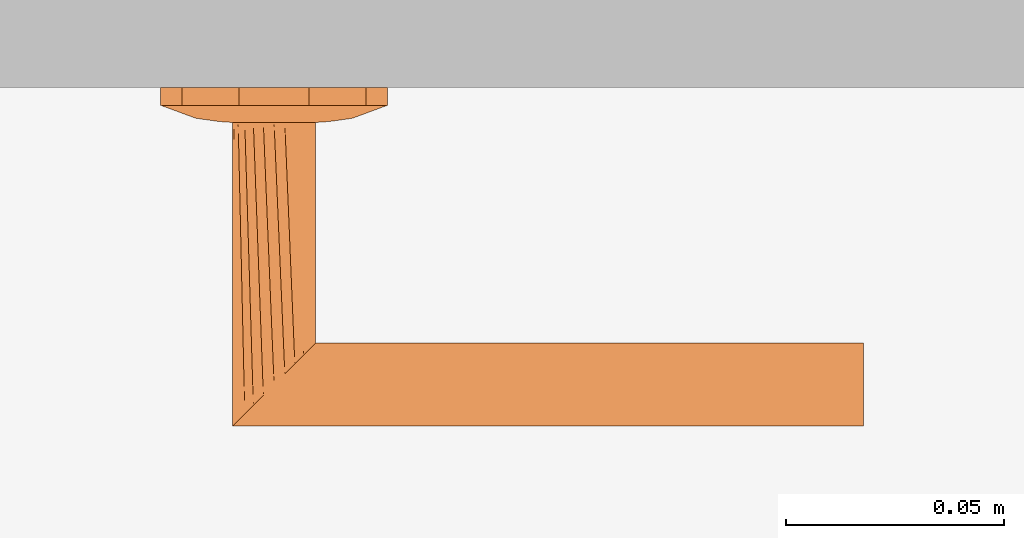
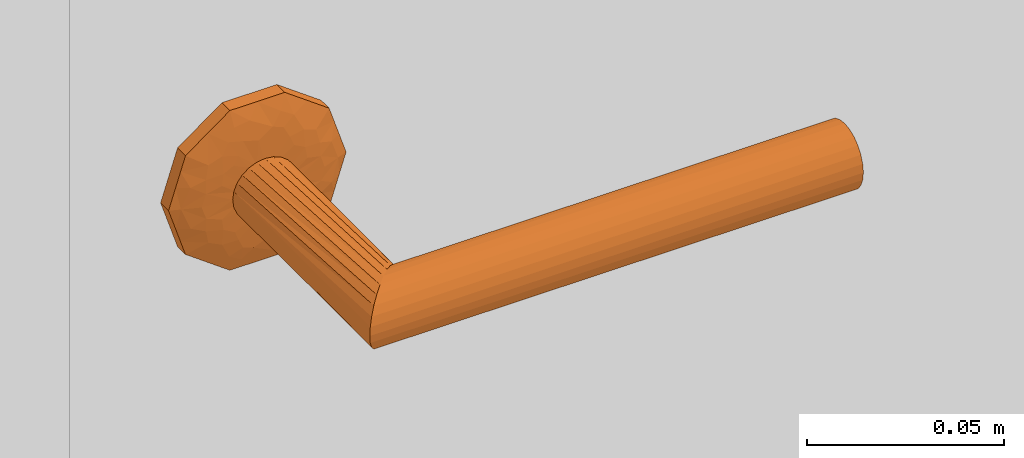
# One storey, part 47 of 55: 1 proxy.
"""IFC2X3 building model written with IfcOpenShell, lengths in millimetres."""

import ifcopenshell
import ifcopenshell.guid

model = None  # the IFC model being written
_history = None  # IfcOwnerHistory: only IFC2X3 demands one
_inside = {}  # id of a spatial element -> (the spatial element, [elements in it])
_under = {}  # id of a project, library or spatial element -> (it, [spatial elements below it])
_declared = {}  # id of a project -> (the project, [libraries it declares])
_typed = {}  # id of a type object -> (the type object, [elements of that type])
_made_of = {}  # id of a material, layer set ... -> (it, [elements and type objects made of it])


def new_model(schema):
    """Start an empty IFC model of exactly this schema.

    Asked for "IFC4X3", IfcOpenShell would pick the latest addendum, in which some entities
    have other attributes; the version numbers below select the first issue.
    IFC2X3 requires an IfcOwnerHistory on every rooted entity: one is made here for all.
    """
    global model, _history
    if schema == "IFC4X3":
        model = ifcopenshell.file(schema_version=(4, 3, 0, 0))
    else:
        model = ifcopenshell.file(schema=schema)
    _inside.clear()
    _under.clear()
    _declared.clear()
    _typed.clear()
    _made_of.clear()
    _history = None
    if model.schema == "IFC2X3":
        org = make("IfcOrganization", Name="unknown")
        user = make(
            "IfcPersonAndOrganization",
            ThePerson=make("IfcPerson", FamilyName="unknown"),
            TheOrganization=org,
        )
        app = make(
            "IfcApplication",
            ApplicationDeveloper=org,
            Version="unknown",
            ApplicationFullName="unknown",
            ApplicationIdentifier="unknown",
        )
        _history = make(
            "IfcOwnerHistory",
            OwningUser=user,
            OwningApplication=app,
            ChangeAction="ADDED",
            CreationDate=0,
        )
    return model


def make(cls, **values):
    """One entity of the class cls with the attributes given. An attribute that is None is left unset."""
    return model.create_entity(
        cls, **{name: value for name, value in values.items() if value is not None}
    )


def entity(cls, *values):
    """Any entity or typed value of the class cls, its attributes in the order of the schema. None: left unset."""
    e = model.create_entity(cls)
    for i, value in enumerate(values):
        if value is not None:
            e[i] = value
    return e


def rooted(cls, **values):
    """An entity with a GlobalId (a new one), such as an element, a storey or a relation."""
    return make(cls, GlobalId=ifcopenshell.guid.new(), OwnerHistory=_history, **values)


def si_unit(unit_type, name, prefix=None):
    """IfcSIUnit, for example si_unit("LENGTHUNIT", "METRE", prefix="MILLI")."""
    return make("IfcSIUnit", UnitType=unit_type, Prefix=prefix, Name=name)


def converted_unit(unit_type, name, factor, base, dimensions=None, offset=None):
    """IfcConversionBasedUnit, such as the inch: factor (a typed value) times the base unit."""
    return make(
        "IfcConversionBasedUnit"
        if offset is None
        else "IfcConversionBasedUnitWithOffset",
        ConversionOffset=offset,
        Dimensions=None
        if dimensions is None
        else entity("IfcDimensionalExponents", *dimensions),
        UnitType=unit_type,
        Name=name,
        ConversionFactor=make(
            "IfcMeasureWithUnit", ValueComponent=factor, UnitComponent=base
        ),
    )


def assignment(units):
    """IfcUnitAssignment: the units of a project."""
    return None if units is None else make("IfcUnitAssignment", Units=units)


def point(xyz):
    """IfcCartesianPoint."""
    return None if xyz is None else make("IfcCartesianPoint", Coordinates=xyz)


def direction(xyz):
    """IfcDirection."""
    return None if xyz is None else make("IfcDirection", DirectionRatios=xyz)


def frame(location, z_axis=None, x_axis=None):
    """IfcAxis2Placement3D, a coordinate frame: its origin and axes. An axis left out is left unset."""
    return make(
        "IfcAxis2Placement3D",
        Location=point(location),
        Axis=direction(z_axis),
        RefDirection=direction(x_axis),
    )


def origin():
    """The frame at (0, 0, 0) with its axes left unset."""
    return frame((0.0, 0.0, 0.0))


def place(relative_to, where):
    """IfcLocalPlacement: puts the frame where relative to a parent placement (None: the world)."""
    return make(
        "IfcLocalPlacement", PlacementRelTo=relative_to, RelativePlacement=where
    )


def context(
    kind, dimensions, precision=None, world=None, true_north=None, identifier=None
):
    """IfcGeometricRepresentationContext, for example the 3D "Model" context."""
    return make(
        "IfcGeometricRepresentationContext",
        ContextIdentifier=identifier,
        ContextType=kind,
        CoordinateSpaceDimension=dimensions,
        Precision=precision,
        WorldCoordinateSystem=world,
        TrueNorth=true_north,
    )


def subcontext(parent, identifier, kind, view, scale=None):
    """IfcGeometricRepresentationSubContext, for example "Body" below "Model"."""
    return make(
        "IfcGeometricRepresentationSubContext",
        ContextIdentifier=identifier,
        ContextType=kind,
        ParentContext=parent,
        TargetScale=scale,
        TargetView=view,
    )


def project(units=None, contexts=None):
    """IfcProject with its units and contexts."""
    return rooted(
        "IfcProject",
        Name="project",
        RepresentationContexts=contexts,
        UnitsInContext=assignment(units),
    )


def spatial(cls, under=None, at=None, **own):
    """A site, building, storey or space (cls), placed at a placement, below another one or the project."""
    s = rooted(cls, ObjectPlacement=at, **own)
    if under is not None:
        _under.setdefault(under.id(), (under, []))[1].append(s)
    return s


def faces_of(points, faces, orient=None, outer=None):
    """IfcFace entities. A face is a list of loops; a loop is a list of indices into points, from 0.

    orient and outer hold one flag for each loop. By default every Orientation is true, the
    first loop of a face is its IfcFaceOuterBound and the others are IfcFaceBound.
    """
    made = []
    for i, loops in enumerate(faces):
        bounds = []
        for j, loop in enumerate(loops):
            is_outer = j == 0 if outer is None else outer[i][j]
            bounds.append(
                make(
                    "IfcFaceOuterBound" if is_outer else "IfcFaceBound",
                    Bound=make("IfcPolyLoop", Polygon=[points[k] for k in loop]),
                    Orientation=True if orient is None else orient[i][j],
                )
            )
        made.append(make("IfcFace", Bounds=bounds))
    return made


def faceted_brep(points, faces, orient=None, outer=None, voids=None):
    """IfcFacetedBrep: a solid bounded by flat faces; with voids (closed shells), ...WithVoids."""
    shared = [point(p) for p in points]
    hull = make("IfcClosedShell", CfsFaces=faces_of(shared, faces, orient, outer))
    if voids is None:
        return make("IfcFacetedBrep", Outer=hull)
    return make(
        "IfcFacetedBrepWithVoids",
        Outer=hull,
        Voids=[
            make(cls, CfsFaces=faces_of(shared, fs, o, b)) for cls, fs, o, b in voids
        ],
    )


def shape(context_of_items, identifier, shape_type, items):
    """IfcShapeRepresentation: the items that make up one representation, for example the "Body"."""
    return make(
        "IfcShapeRepresentation",
        ContextOfItems=context_of_items,
        RepresentationIdentifier=identifier,
        RepresentationType=shape_type,
        Items=items,
    )


def source(mapping_origin, context_of_items, identifier, shape_type, items):
    """IfcRepresentationMap: a shape defined once, which mapped items show again and again."""
    return make(
        "IfcRepresentationMap",
        MappingOrigin=mapping_origin,
        MappedRepresentation=shape(context_of_items, identifier, shape_type, items),
    )


def transform(
    local_origin,
    x_axis=None,
    y_axis=None,
    z_axis=None,
    scale=None,
    scale2=None,
    scale3=None,
    uniform=True,
):
    """IfcCartesianTransformationOperator3D, or its non-uniform kind. x_axis, y_axis, z_axis: its Axis1, 2, 3."""
    if uniform:
        return make(
            "IfcCartesianTransformationOperator3D",
            Axis1=direction(x_axis),
            Axis2=direction(y_axis),
            LocalOrigin=point(local_origin),
            Scale=scale,
            Axis3=direction(z_axis),
        )
    return make(
        "IfcCartesianTransformationOperator3DnonUniform",
        Axis1=direction(x_axis),
        Axis2=direction(y_axis),
        LocalOrigin=point(local_origin),
        Scale=scale,
        Axis3=direction(z_axis),
        Scale2=scale2,
        Scale3=scale3,
    )


def mapped(mapping_source, mapping_target):
    """IfcMappedItem: shows the shape of a source again, moved by a transform."""
    return make(
        "IfcMappedItem", MappingSource=mapping_source, MappingTarget=mapping_target
    )


def material(Name=None, Category=None):
    """IfcMaterial."""
    return make("IfcMaterial", Name=Name, Category=Category)


def made_of(thing, what):
    """Note that an element or type object is made of a material, layer set ...; save() writes the relation."""
    if what is not None:
        _made_of.setdefault(what.id(), (what, []))[1].append(thing)
    return thing


def type_object(cls, material=None, **own):
    """A type object (cls), such as IfcWallType, which elements share."""
    return made_of(rooted(cls, **own), material)


def type_shapes(of_type, sources):
    """Give a type object the sources (RepresentationMaps) that its elements show as mapped items."""
    of_type.RepresentationMaps = sources


def element(
    cls,
    number,
    at=None,
    inside=None,
    cuts=None,
    type_object=None,
    material=None,
    context=None,
    identifier="Body",
    shape_type=None,
    held_by="IfcProductDefinitionShape",
    body=None,
    shapes=None,
    **own,
):
    """One element of the class cls, such as IfcWall. Its Tag is "e" and its number.

    at: its placement. inside: the storey or other place that contains it. cuts: it is an
    opening in that element (IfcRelVoidsElement). A single representation is given by context,
    identifier, shape_type and body (its items); several are given by shapes. held_by: the class
    of the entity that holds the representations. save() writes the other relations.
    """
    e = rooted(cls, Tag="e%d" % number, ObjectPlacement=at, **own)
    if body is not None:
        shapes = [shape(context, identifier, shape_type, body)]
    if shapes is not None:
        e.Representation = make(held_by, Representations=shapes)
    if inside is not None:
        _inside.setdefault(inside.id(), (inside, []))[1].append(e)
    if cuts is not None:
        rooted(
            "IfcRelVoidsElement", RelatingBuildingElement=cuts, RelatedOpeningElement=e
        )
    if type_object is not None:
        _typed.setdefault(type_object.id(), (type_object, []))[1].append(e)
    return made_of(e, material)


def aggregate(whole, parts):
    """IfcRelAggregates: a whole, such as a stair, and the parts it consists of."""
    return rooted("IfcRelAggregates", RelatingObject=whole, RelatedObjects=parts)


def save(model, path):
    """Write the relations noted so far, then the file.

    IfcRelAggregates (storeys below a building ...), IfcRelContainedInSpatialStructure (elements
    in a storey), IfcRelDefinesByType, IfcRelAssociatesMaterial and IfcRelDeclares: one each for
    every whole, place, type object, material and project.
    """
    for whole, parts in _under.values():
        aggregate(whole, parts)
    for where, things in _inside.values():
        rooted(
            "IfcRelContainedInSpatialStructure",
            RelatedElements=things,
            RelatingStructure=where,
        )
    for kind, things in _typed.values():
        rooted("IfcRelDefinesByType", RelatedObjects=things, RelatingType=kind)
    for what, things in _made_of.values():
        rooted("IfcRelAssociatesMaterial", RelatedObjects=things, RelatingMaterial=what)
    for by, libraries in _declared.values():
        rooted("IfcRelDeclares", RelatingContext=by, RelatedDefinitions=libraries)
    model.write(path)


model = new_model("IFC2X3")

# Units and contexts
model_context = context("Model", 3, precision=0.01, world=origin(), true_north=direction((6.123233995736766e-17, 1.0)))
plan_context = context("Plan", 3, precision=0.01, world=origin(), true_north=direction((6.123233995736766e-17, 1.0)))
body_context = subcontext(model_context, "Body", "Model", "MODEL_VIEW")
ifc_project = project(units=[si_unit("LENGTHUNIT", "METRE", prefix="MILLI"), converted_unit("PLANEANGLEUNIT", "DEGREE", entity("IfcPlaneAngleMeasure", 0.017453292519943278), si_unit("PLANEANGLEUNIT", "RADIAN"), dimensions=[0, 0, 0, 0, 0, 0, 0]), si_unit("AREAUNIT", "SQUARE_METRE")], contexts=[model_context, plan_context])

# Site, building, storey
site_placement = place(None, origin())
site = spatial("IfcSite", under=ifc_project, at=site_placement, Name="Default", CompositionType="ELEMENT")
building_placement = place(site_placement, origin())
building = spatial("IfcBuilding", under=site, at=building_placement, CompositionType="ELEMENT")
storey_placement = place(building_placement, origin())
storey = spatial("IfcBuildingStorey", under=building, at=storey_placement, Name="1K", CompositionType="ELEMENT", Elevation=0.0)

# Proxy
ifc_material = material(Name="<Unnamed>")
building_element_proxy_type = type_object("IfcBuildingElementProxyType", Name="Door-handle_Lever_ABLOY_INOXI_3-19ss-002_RT:Default", PredefinedType="NOTDEFINED", material=ifc_material)
shared_shape = source(origin(), body_context, "Body", "Brep", [
    faceted_brep([(0.0, 0.0, 0.0), (8.034441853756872, 24.72746942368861, 0.0), (14.534441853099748, 20.00494299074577, 0.0), (21.034441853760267, 15.282416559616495, 0.0), (23.51722092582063, 7.641208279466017, 0.0), (26.0, 0.0, 0.0), (23.517220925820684, -7.641208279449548, 0.0), (0.0, 24.72746942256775, 0.0), (-8.034441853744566, 24.727469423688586, 0.0), (-14.534441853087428, 20.00494299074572, 0.0), (-21.03444185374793, 15.282416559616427, 0.0), (-23.517220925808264, 7.641208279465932, 0.0), (-26.0, 0.0, 0.0), (21.034441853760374, -15.282416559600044, 0.0), (14.534441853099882, -20.004942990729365, 0.0), (8.034441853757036, -24.72746942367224, 0.0), (0.0, -24.72746942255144, 0.0), (-23.517220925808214, -7.641208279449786, 0.0), (-21.034441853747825, -15.282416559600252, 0.0), (-14.53444185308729, -20.004942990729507, 0.0), (-8.0344418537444, -24.72746942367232, 0.0), (0.0, 0.0, 8.0), (9.500000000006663, 0.0, 8.0), (8.312500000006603, 2.056810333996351, 8.0), (7.125000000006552, 4.113620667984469, 8.0), (5.937500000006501, 6.170431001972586, 8.0), (4.7500000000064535, 8.227241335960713, 8.0), (2.375000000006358, 8.2272413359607, 8.0), (0.0, 8.227241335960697, 8.0), (-2.3749999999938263, 8.227241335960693, 8.0), (-4.749999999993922, 8.227241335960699, 8.0), (-5.937499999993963, 6.1704310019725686, 8.0), (-7.124999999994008, 4.1136206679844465, 8.0), (-8.312499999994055, 2.0568103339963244, 8.0), (-9.499999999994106, 0.0, 8.0), (-8.31249999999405, -2.0568103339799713, 8.0), (8.312500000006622, -2.0568103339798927, 8.0), (7.125000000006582, -4.113620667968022, 8.0), (5.937500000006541, -6.170431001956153, 8.0), (4.750000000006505, -8.227241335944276, 8.0), (-7.124999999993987, -4.113620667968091, 8.0), (-5.9374999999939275, -6.17043100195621, 8.0), (-4.74999999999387, -8.227241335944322, 8.0), (-2.374999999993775, -8.227241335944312, 8.0), (0.0, -8.227241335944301, 8.0), (2.3750000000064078, -8.227241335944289, 8.0), (-20.6430713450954, 6.292822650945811, 5.929480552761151), (-16.663919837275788, 7.932665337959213, 6.877259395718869), (-22.48876527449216, 10.806469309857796, 4.030771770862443), (-16.764060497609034, 3.8202578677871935, 7.1747985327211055), (-12.504579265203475, 5.179566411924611, 7.774932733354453), (-11.979136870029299, 13.678312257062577, 6.945778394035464), (-11.963426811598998, 8.62529041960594, 7.618343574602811), (-9.07172672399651, 10.31160661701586, 7.7520782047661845), (8.03444185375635, 24.727469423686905, 4.030771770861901), (0.0, 24.72746942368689, 4.030771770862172), (5.758554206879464, 20.96753300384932, 5.871476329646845), (20.643071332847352, 6.292822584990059, 5.929480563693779), (22.488765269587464, 10.806469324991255, 4.03077177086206), (16.66391982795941, 7.9326653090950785, 6.877259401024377), (9.49943163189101, 18.6436835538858, 6.154325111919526), (14.534441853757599, 20.004942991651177, 4.030771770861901), (-14.534441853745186, 20.00494299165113, 4.030771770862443), (-21.034441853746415, 15.282416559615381, 4.030771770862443), (-15.783149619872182, 11.991003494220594, 6.50080018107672), (-23.943088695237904, 6.330522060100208, 4.030771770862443), (-23.012042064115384, 0.0, 5.135401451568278), (12.50457924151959, 5.179566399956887, 7.774932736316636), (11.963426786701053, 8.625290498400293, 7.618343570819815), (16.76406041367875, 3.820257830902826, 7.17479855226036), (15.783149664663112, 11.991003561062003, 6.50080015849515), (23.01204200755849, 0.0, 5.135401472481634), (17.9853516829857, 0.0, 6.993737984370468), (8.661516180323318, 10.478936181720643, 7.768126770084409), (-3.3573143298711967, 21.197247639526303, 5.971427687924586), (-8.03444185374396, 24.727469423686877, 4.030771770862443), (-7.711266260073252, 12.76034452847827, 7.594456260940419), (-5.97325794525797, 16.43013906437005, 7.110979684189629), (-9.94191586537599, 17.061976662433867, 6.522757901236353), (11.979136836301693, 13.678312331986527, 6.945778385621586), (5.953298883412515, 16.50608604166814, 7.096344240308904), (7.511307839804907, 13.358932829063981, 7.529187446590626), (-1.5654593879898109, 15.307443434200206, 7.519134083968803), (-7.784980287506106, 20.476295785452, 5.812837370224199), (2.8135289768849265, 17.763922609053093, 6.993737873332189), (-17.985351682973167, 0.0, 6.993737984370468), (-26.0, 0.0, 4.030771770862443), (-23.51722092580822, 7.641208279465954, 4.030771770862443), (26.0, 0.0, 4.030771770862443), (24.308823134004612, 5.204907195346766, 4.030771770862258), (23.943088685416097, 6.330522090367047, 4.030771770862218), (21.03444185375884, 15.282416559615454, 4.030771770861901), (22.617646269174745, 10.40981439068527, 4.030771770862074), (20.6430713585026, -6.292822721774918, 5.929480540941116), (16.663919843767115, -7.932665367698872, 6.877259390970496), (22.48876527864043, -10.8064692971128, 4.030771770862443), (16.764060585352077, -3.8202579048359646, 7.174798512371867), (12.504579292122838, -5.17956641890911, 7.774932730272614), (11.979136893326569, -13.678312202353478, 6.9457784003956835), (11.963426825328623, -8.62529034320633, 7.618343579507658), (9.071726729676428, -10.311606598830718, 7.752078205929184), (-8.03444185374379, -24.727469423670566, 4.030771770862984), (0.0, -24.727469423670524, 4.030771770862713), (-5.758554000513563, -20.96753314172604, 5.8714763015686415), (-20.643071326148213, -6.292822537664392, 5.929480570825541), (-22.488765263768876, -10.80646934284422, 4.030771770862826), (-16.66391981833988, -7.932665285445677, 6.877259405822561), (-9.499431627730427, -18.643683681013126, 6.154325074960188), (-14.534441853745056, -20.004942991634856, 4.030771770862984), (14.53444185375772, -20.00494299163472, 4.030771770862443), (21.034441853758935, -15.282416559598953, 4.030771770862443), (15.783149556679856, -11.991003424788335, 6.5008002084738), (23.943088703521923, -6.330522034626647, 4.030771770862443), (-12.504579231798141, -5.17956638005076, 7.77493273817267), (-11.963426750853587, -8.625290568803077, 7.618343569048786), (-16.764060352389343, -3.8202577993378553, 7.174798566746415), (-15.783149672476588, -11.991003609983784, 6.500800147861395), (-8.661516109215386, -10.478936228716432, 7.768126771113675), (3.3573144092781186, -21.197247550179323, 5.971427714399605), (8.034441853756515, -24.727469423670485, 4.030771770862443), (7.711266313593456, -12.760344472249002, 7.5944562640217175), (5.9732581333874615, -16.430139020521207, 7.110979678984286), (9.941915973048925, -17.06197655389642, 6.522757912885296), (-11.979136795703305, -13.678312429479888, 6.945778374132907), (-5.953298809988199, -16.506086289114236, 7.096344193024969), (-7.511307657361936, -13.358932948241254, 7.5291874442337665), (1.5654596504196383, -15.3074431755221, 7.519134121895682), (7.784980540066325, -20.476295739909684, 5.812837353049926), (-2.81352881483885, -17.76392263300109, 6.993737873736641), (23.517220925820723, -7.64120827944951, 4.030771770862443), (-24.308823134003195, -5.20490719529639, 4.030771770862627), (-23.943088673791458, -6.330522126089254, 4.030771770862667), (-21.034441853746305, -15.282416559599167, 4.030771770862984), (-22.617646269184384, -10.409814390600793, 4.0307717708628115)], [[[0, 1, 2]], [[0, 2, 3]], [[0, 3, 4]], [[0, 4, 5]], [[0, 5, 6]], [[0, 7, 1]], [[0, 8, 7]], [[0, 9, 8]], [[0, 10, 9]], [[0, 11, 10]], [[0, 12, 11]], [[0, 6, 13]], [[0, 13, 14]], [[0, 14, 15]], [[0, 15, 16]], [[0, 17, 12]], [[0, 18, 17]], [[0, 19, 18]], [[0, 20, 19]], [[0, 16, 20]], [[21, 22, 23]], [[21, 23, 24]], [[21, 24, 25]], [[21, 25, 26]], [[21, 26, 27]], [[21, 27, 28]], [[21, 28, 29]], [[21, 29, 30]], [[21, 30, 31]], [[21, 31, 32]], [[21, 32, 33]], [[21, 33, 34]], [[21, 34, 35]], [[21, 36, 22]], [[21, 37, 36]], [[21, 38, 37]], [[21, 39, 38]], [[21, 35, 40]], [[21, 40, 41]], [[21, 41, 42]], [[21, 42, 43]], [[21, 43, 44]], [[21, 44, 45]], [[21, 45, 39]], [[46, 47, 48]], [[49, 50, 47]], [[33, 32, 50]], [[51, 52, 53]], [[32, 52, 50]], [[49, 47, 46]], [[54, 55, 56]], [[57, 58, 59]], [[60, 61, 54]], [[62, 63, 64]], [[46, 65, 66]], [[67, 59, 68]], [[23, 69, 67]], [[70, 68, 59]], [[23, 22, 69]], [[52, 51, 64]], [[71, 69, 72]], [[73, 25, 68]], [[74, 55, 75]], [[76, 77, 78]], [[70, 61, 79]], [[71, 57, 69]], [[60, 80, 81]], [[51, 76, 78]], [[77, 29, 82]], [[26, 81, 27]], [[74, 83, 77]], [[77, 82, 74]], [[74, 84, 55]], [[34, 49, 85]], [[23, 67, 24]], [[28, 84, 82]], [[74, 82, 84]], [[29, 76, 30]], [[29, 28, 82]], [[49, 34, 33]], [[47, 50, 52]], [[47, 52, 64]], [[50, 49, 33]], [[53, 76, 51]], [[52, 32, 31]], [[49, 66, 85]], [[86, 66, 65]], [[24, 67, 68]], [[83, 78, 77]], [[49, 46, 66]], [[48, 64, 63]], [[46, 48, 87, 65]], [[48, 47, 64]], [[59, 67, 69]], [[26, 73, 81]], [[79, 68, 70]], [[25, 24, 68]], [[71, 88, 89, 90]], [[22, 72, 69]], [[59, 69, 57]], [[79, 61, 60]], [[51, 62, 64]], [[70, 58, 91]], [[90, 57, 71]], [[58, 70, 59]], [[57, 90, 92]], [[79, 60, 81]], [[61, 70, 91]], [[56, 80, 60]], [[79, 81, 73]], [[80, 84, 27]], [[79, 73, 68]], [[27, 84, 28]], [[25, 73, 26]], [[77, 76, 29]], [[31, 30, 53]], [[78, 62, 51]], [[75, 62, 83]], [[78, 83, 62]], [[75, 83, 74]], [[76, 53, 30]], [[31, 53, 52]], [[81, 80, 27]], [[84, 80, 56]], [[84, 56, 55]], [[54, 56, 60]], [[93, 94, 95]], [[96, 97, 94]], [[36, 37, 97]], [[98, 99, 100]], [[37, 99, 97]], [[96, 94, 93]], [[101, 102, 103]], [[104, 105, 106]], [[107, 108, 101]], [[109, 110, 111]], [[93, 112, 71]], [[113, 106, 114]], [[35, 115, 113]], [[116, 114, 106]], [[35, 34, 115]], [[99, 98, 111]], [[66, 115, 85]], [[117, 41, 114]], [[118, 102, 119]], [[120, 121, 122]], [[116, 108, 123]], [[66, 104, 115]], [[107, 124, 125]], [[120, 45, 121]], [[121, 45, 126]], [[42, 125, 43]], [[118, 127, 121]], [[121, 126, 118]], [[118, 128, 102]], [[22, 96, 72]], [[35, 113, 40]], [[44, 128, 126]], [[118, 126, 128]], [[45, 120, 39]], [[45, 44, 126]], [[96, 22, 36]], [[94, 97, 99]], [[94, 99, 111]], [[97, 96, 36]], [[100, 120, 98]], [[99, 37, 38]], [[96, 71, 72]], [[88, 71, 112]], [[40, 113, 114]], [[127, 122, 121]], [[96, 93, 71]], [[95, 111, 110]], [[93, 95, 129, 112]], [[95, 94, 111]], [[106, 113, 115]], [[42, 117, 125]], [[123, 114, 116]], [[41, 40, 114]], [[66, 86, 130, 131]], [[34, 85, 115]], [[106, 115, 104]], [[123, 108, 107]], [[98, 109, 111]], [[116, 105, 132]], [[131, 104, 66]], [[105, 116, 106]], [[104, 131, 133]], [[123, 107, 125]], [[108, 116, 132]], [[103, 124, 107]], [[123, 125, 117]], [[124, 128, 43]], [[123, 117, 114]], [[43, 128, 44]], [[41, 117, 42]], [[38, 39, 100]], [[98, 120, 122]], [[122, 109, 98]], [[119, 109, 127]], [[122, 127, 109]], [[119, 127, 118]], [[120, 100, 39]], [[38, 100, 99]], [[125, 124, 43]], [[128, 124, 103]], [[128, 103, 102]], [[101, 103, 107]], [[9, 10, 63, 62, 75, 8]], [[11, 12, 86, 65, 87, 48, 63, 10]], [[4, 3, 92, 90, 89, 88, 5]], [[3, 91, 58]], [[55, 54, 1, 7, 8, 75]], [[3, 2, 1, 54, 61, 91]], [[13, 6, 5, 88, 112, 129, 95, 110]], [[119, 15, 14, 13, 110, 109]], [[17, 18, 133, 131, 130, 86, 12]], [[18, 132, 105]], [[102, 101, 20, 16, 15, 119]], [[18, 19, 20, 101, 108, 132]], [[57, 92, 58]], [[104, 133, 105]], [[3, 58, 92]], [[18, 105, 133]]]),
    faceted_brep([(0.0, 9.499999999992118, 8.0), (2.4587809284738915, 9.176295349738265, 8.0), (4.7499999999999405, 8.22724133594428, 8.0), (6.717514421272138, 6.7175144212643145, 8.0), (8.227241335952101, 4.749999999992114, 8.0), (9.17629534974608, 2.458780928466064, 8.0), (9.499999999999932, 0.0, 8.0), (9.17629534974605, -2.458780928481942, 8.0), (8.22724133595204, -4.75000000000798, 8.0), (6.717514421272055, -6.717514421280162, 8.0), (4.7499999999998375, -8.227241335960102, 8.0), (2.4587809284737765, -9.176295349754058, 8.0), (0.0, -9.500000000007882, 8.0), (-2.4587809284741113, -9.176295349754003, 8.0), (-4.750000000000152, -8.227241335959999, 8.0), (-6.717514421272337, -6.717514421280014, 8.0), (-8.227241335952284, -4.750000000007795, 8.0), (-9.176295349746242, -2.458780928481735, 8.0), (-9.500000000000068, 0.0, 8.0), (-9.176295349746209, 2.4587809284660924, 8.0), (-8.227241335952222, 4.74999999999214, 8.0), (-6.717514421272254, 6.717514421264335, 8.0), (-4.7500000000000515, 8.227241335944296, 8.0), (-2.4587809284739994, 9.176295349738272, 8.0), (-6.717514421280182, -6.7175144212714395, 61.282485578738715), (-8.227241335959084, -4.7499999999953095, 59.772758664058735), (-9.176295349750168, -2.458780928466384, 58.82370465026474), (-2.4587809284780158, -9.176295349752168, 65.54121907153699), (-4.750000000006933, -8.227241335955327, 63.25000000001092), (-9.500000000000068, 0.0, 58.50000000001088), (0.0, -9.50000000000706, 68.0), (2.4587809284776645, -9.17629534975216, 70.45878092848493), (4.750000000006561, -8.227241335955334, 72.75000000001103), (6.717514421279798, -6.7175144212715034, 74.71751442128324), (9.17629534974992, -2.458780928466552, 77.17629534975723), (8.22724133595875, -4.749999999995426, 76.22724133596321), (9.499999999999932, 0.0, 77.50000000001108), (9.176295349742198, 2.4587809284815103, 77.1762953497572), (8.227241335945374, 4.750000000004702, 76.22724133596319), (4.749999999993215, 8.227241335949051, 72.75000000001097), (6.7175144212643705, 6.717514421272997, 74.7175144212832), (2.4587809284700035, 9.17629534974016, 70.45878092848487), (-2.4587809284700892, 9.176295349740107, 65.54121907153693), (0.0, 9.49999999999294, 68.0), (-6.717514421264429, 6.717514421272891, 61.282485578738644), (-4.749999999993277, 8.227241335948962, 63.250000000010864), (-9.176295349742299, 2.458780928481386, 58.8237046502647), (-8.227241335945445, 4.750000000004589, 59.77275866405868), (-135.0, 9.500000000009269, 68.0), (-135.0, 9.176295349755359, 65.54121907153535), (-135.0, 8.227241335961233, 63.25000000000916), (-135.0, 6.7175144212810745, 61.28248557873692), (-135.0, 4.750000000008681, 59.772758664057), (-135.0, 2.458780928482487, 58.82370465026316), (-135.0, 0.0, 58.50000000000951), (-135.0, -2.458780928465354, 58.823704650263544), (-135.0, -4.749999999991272, 59.772758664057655), (-135.0, -6.717514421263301, 61.28248557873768), (-135.0, -8.227241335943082, 63.250000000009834), (-135.0, -9.17629534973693, 65.54121907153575), (-135.0, -9.499999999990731, 68.0), (-135.0, -9.17629534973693, 70.45878092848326), (-135.0, -8.227241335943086, 72.75000000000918), (-135.0, -6.717514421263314, 74.71751442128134), (-135.0, -4.749999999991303, 76.22724133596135), (-135.0, -2.4587809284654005, 77.17629534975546), (-135.0, 0.0, 77.5000000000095), (-135.0, 2.4587809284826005, 77.17629534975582), (-135.0, 4.750000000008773, 76.22724133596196), (-135.0, 6.717514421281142, 74.71751442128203), (-135.0, 8.227241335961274, 72.75000000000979), (-135.0, 9.176295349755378, 70.4587809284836)], [[[0, 1, 2, 3, 4, 5, 6, 7, 8, 9, 10, 11, 12, 13, 14, 15, 16, 17, 18, 19, 20, 21, 22, 23]], [[15, 24, 25, 16]], [[16, 25, 26, 17]], [[27, 28, 12]], [[12, 28, 13]], [[13, 28, 24]], [[18, 17, 26, 29]], [[24, 15, 14]], [[14, 13, 24]], [[11, 30, 27]], [[31, 9, 32]], [[32, 8, 33]], [[34, 35, 7]], [[7, 35, 33]], [[36, 34, 7, 6]], [[30, 11, 10]], [[11, 27, 12]], [[33, 8, 7]], [[8, 32, 9]], [[31, 10, 9]], [[10, 31, 30]], [[37, 36, 6, 5]], [[37, 5, 38]], [[39, 40, 4]], [[5, 40, 38]], [[41, 39, 3]], [[5, 4, 40]], [[42, 43, 1]], [[2, 1, 43]], [[2, 41, 3]], [[39, 4, 3]], [[2, 43, 41]], [[23, 44, 45]], [[0, 45, 42]], [[19, 18, 29, 46]], [[20, 19, 46, 47]], [[21, 20, 47, 44]], [[23, 22, 44]], [[45, 0, 23]], [[44, 22, 21]], [[1, 0, 42]], [[48, 49, 50, 51, 52, 53, 54, 55, 56, 57, 58, 59, 60, 61, 62, 63, 64, 65, 66, 67, 68, 69, 70, 71]], [[26, 25, 56, 55]], [[29, 26, 55, 54]], [[28, 27, 59, 58]], [[24, 28, 58, 57]], [[25, 24, 57, 56]], [[27, 30, 60, 59]], [[32, 33, 63, 62]], [[31, 32, 62, 61]], [[34, 36, 66, 65]], [[35, 34, 65, 64]], [[33, 35, 64, 63]], [[61, 60, 30, 31]], [[38, 68, 67, 37]], [[37, 67, 66, 36]], [[41, 71, 70, 39]], [[39, 70, 69, 40]], [[40, 69, 68, 38]], [[48, 71, 41, 43]], [[44, 51, 50, 45]], [[45, 50, 49, 42]], [[29, 54, 53, 46]], [[46, 53, 52, 47]], [[47, 52, 51, 44]], [[42, 49, 48, 43]]]),
])
type_shapes(building_element_proxy_type, [shared_shape])
proxy_placement = place(storey_placement, frame((15950.0, 3069.9999594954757, 1000.0), z_axis=(0.0, -1.0, 0.0), x_axis=(-1.0, 0.0, 0.0)))
element("IfcBuildingElementProxy", 1, at=proxy_placement, inside=storey, type_object=building_element_proxy_type, material=ifc_material, Name="Door-handle_Lever_ABLOY_INOXI_3-19ss-002_RT:Default", ObjectType="Door-handle_Lever_ABLOY_INOXI_3-19ss-002_RT:Default", context=body_context, shape_type="MappedRepresentation", body=[
    mapped(shared_shape, transform((0.0, 0.0, 0.0), scale=1.0)),
])

save(model, "model.ifc")
